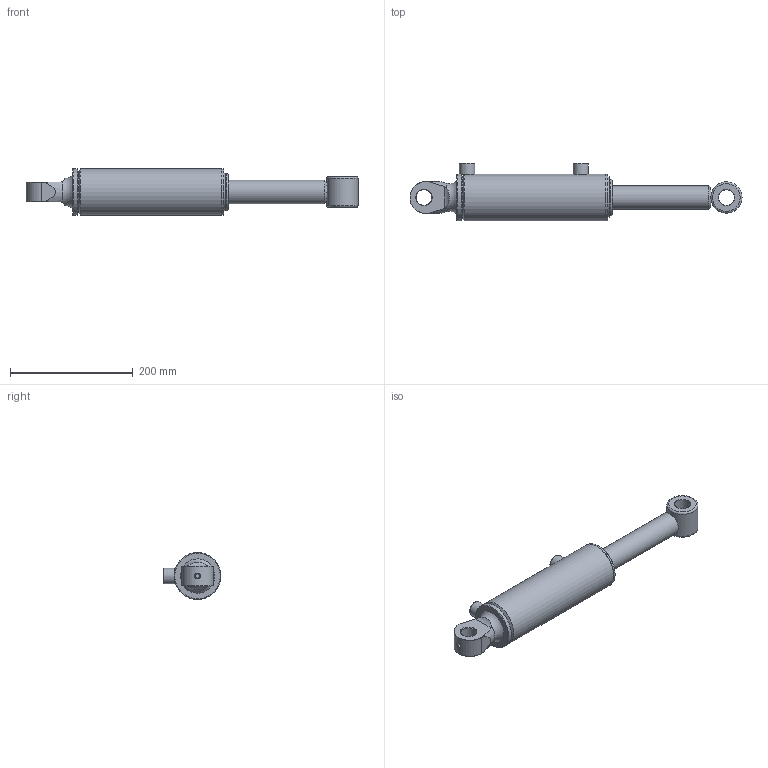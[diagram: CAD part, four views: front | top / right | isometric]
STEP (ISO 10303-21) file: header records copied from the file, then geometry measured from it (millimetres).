
FILE_DESCRIPTION(/* description */ ('Alibre Inc.'),/* implementation_level */ '2;1');
FILE_NAME(/* name */ 'export0',/* time_stamp */ '2016-08-16T09:54:42+12:00',/* author */ (''),/* organization */ (''),/* preprocessor_version */ 'ST-DEVELOPER v14',/* originating_system */ 'Alibre',/* authorisation */ '');
FILE_SCHEMA (('AUTOMOTIVE_DESIGN'));
Length unit declared in the file: centimetre
Bounding box: 540.13 x 94.2 x 76.2 mm (x, y, z)
Volume: 969510.7 mm3; surface area: 233976.8 mm2
Topology: 12 solids, 12 shells, 150 faces, 308 edges, 192 vertices
Faces by surface type: cylinder 55, plane 51, cone 28, torus 13, sphere 2, bspline 1
Full cylindrical faces by diameter (mm): 2.5 x2, 7 x3, 8.3 x2, 8.8 x1, 15.25 x2, 23 x1, 23.622 x1, 25 x2, 25.4 x2, 25.45 x1, 38.1 x1, 38.18 x2, 38.35 x1, 44.45 x1, 47.62 x2, 47.63 x1, 48 x2, 50.8 x1, 56.5 x1, 57.66 x1, 58.9 x2, 59.87 x2, 60.2 x1, 62.13 x2, 63.39 x2, 63.4 x1, 63.5 x2, 66.7 x1, 76.2 x3
Entity records: 4139 total; most frequent: CARTESIAN_POINT 1185, DIRECTION 569, ORIENTED_EDGE 394, AXIS2_PLACEMENT_3D 300, FACE_BOUND 271, EDGE_LOOP 269, EDGE_CURVE 197, VERTEX_POINT 174
